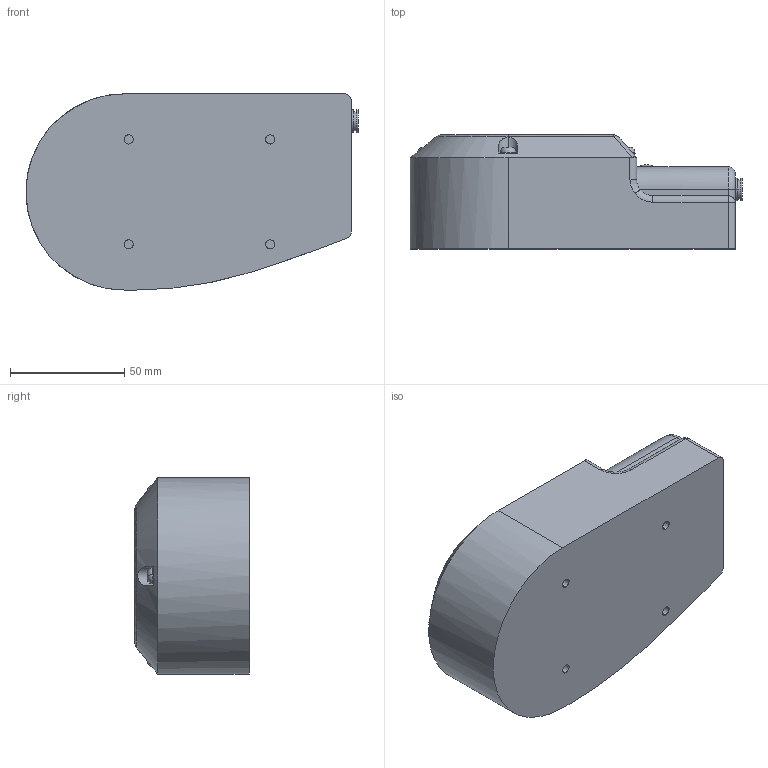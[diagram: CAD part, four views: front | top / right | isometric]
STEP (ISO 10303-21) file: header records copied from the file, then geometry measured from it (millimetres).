
FILE_DESCRIPTION (( 'STEP AP214' ), '1' );
FILE_NAME ('D-1000Z_Assem0.STEP', '2024-06-20T23:54:03', ( '' ), ( '' ), 'SwSTEP 2.0', 'SolidWorks 2023', '' );
FILE_SCHEMA (( 'AUTOMOTIVE_DESIGN' ));
Length unit declared in the file: millimetre
Products named in the file (3): SCREW M4 X6 MM; D-1000Z_Part1; D-1000Z_Assem0
Assembly tree (5 placements, depth 2):
  D-1000Z_Assem0
    D-1000Z_Part1
    SCREW M4 X6 MM  x4
Bounding box: 145.5 x 50 x 86.05 mm (x, y, z)
Volume: 442288.6 mm3; surface area: 40514.1 mm2
Topology: 5 solids, 6 shells, 201 faces, 494 edges, 325 vertices
Faces by surface type: plane 74, cylinder 60, bspline 25, torus 22, cone 16, sphere 4
Entity records: 5274 total; most frequent: CARTESIAN_POINT 2068, DIRECTION 665, ORIENTED_EDGE 640, EDGE_CURVE 320, AXIS2_PLACEMENT_3D 276, VERTEX_POINT 205, EDGE_LOOP 155, CIRCLE 143
